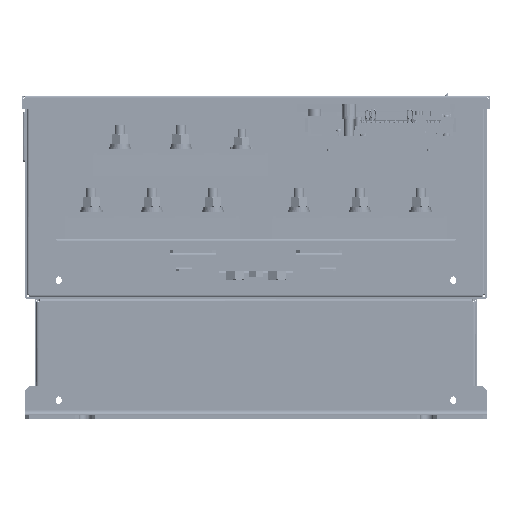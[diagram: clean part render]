
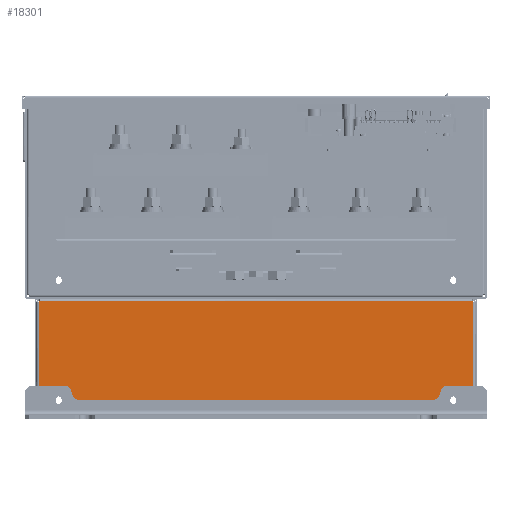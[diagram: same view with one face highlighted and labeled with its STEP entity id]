
A CAD part, front view. The second image highlights one B-rep face of the part: STEP entity #18301.
In plain terms, the highlighted planar face has unit normal (0, -1, 0) as drawn and (0, 0, 1) by its records, which use the part's own axes.
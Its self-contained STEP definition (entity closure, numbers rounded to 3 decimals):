
#16862=DIRECTION('',(-1.,0.,0.));
#16863=VECTOR('',#16862,469.679);
#16864=CARTESIAN_POINT('',(234.84,2.8,0.));
#16865=LINE('',#16864,#16863);
#16870=CARTESIAN_POINT('',(-236.5,126.685,0.));
#16871=DIRECTION('',(0.,0.,1.));
#16872=DIRECTION('',(0.5,-0.866,0.));
#16873=AXIS2_PLACEMENT_3D('',#16870,#16871,#16872);
#16875=CARTESIAN_POINT('',(236.5,126.685,0.));
#16876=DIRECTION('',(0.,0.,1.));
#16877=DIRECTION('',(-0.84,-0.543,0.));
#16878=AXIS2_PLACEMENT_3D('',#16875,#16876,#16877);
#16880=CARTESIAN_POINT('',(236.5,1.685,0.));
#16881=DIRECTION('',(0.,0.,1.));
#16882=DIRECTION('',(-0.5,0.866,0.));
#16883=AXIS2_PLACEMENT_3D('',#16880,#16881,#16882);
#16885=CARTESIAN_POINT('',(-236.5,1.685,0.));
#16886=DIRECTION('',(0.,0.,1.));
#16887=DIRECTION('',(0.83,0.557,0.));
#16888=AXIS2_PLACEMENT_3D('',#16885,#16886,#16887);
#16890=CARTESIAN_POINT('',(212.5,18.3,0.));
#16891=DIRECTION('',(0.,0.,1.));
#16892=DIRECTION('',(-1.,0.,0.));
#16893=AXIS2_PLACEMENT_3D('',#16890,#16891,#16892);
#16895=CARTESIAN_POINT('',(212.5,18.3,0.));
#16896=DIRECTION('',(0.,0.,1.));
#16897=DIRECTION('',(1.,0.,0.));
#16898=AXIS2_PLACEMENT_3D('',#16895,#16896,#16897);
#16900=CARTESIAN_POINT('',(-212.5,18.3,0.));
#16901=DIRECTION('',(0.,0.,1.));
#16902=DIRECTION('',(-1.,0.,0.));
#16903=AXIS2_PLACEMENT_3D('',#16900,#16901,#16902);
#16905=CARTESIAN_POINT('',(-212.5,18.3,0.));
#16906=DIRECTION('',(0.,0.,1.));
#16907=DIRECTION('',(1.,0.,0.));
#16908=AXIS2_PLACEMENT_3D('',#16905,#16906,#16907);
#16918=DIRECTION('',(0.,1.,0.));
#16919=VECTOR('',#16918,121.536);
#16920=CARTESIAN_POINT('',(-235.5,3.417,0.));
#16921=LINE('',#16920,#16919);
#17130=DIRECTION('',(0.,-1.,0.));
#17131=VECTOR('',#17130,121.536);
#17132=CARTESIAN_POINT('',(235.5,124.953,0.));
#17133=LINE('',#17132,#17131);
#17688=DIRECTION('',(1.,0.,0.));
#17689=VECTOR('',#17688,469.64);
#17690=CARTESIAN_POINT('',(-234.82,125.6,0.));
#17691=LINE('',#17690,#17689);
#17982=CARTESIAN_POINT('',(206.25,18.3,0.));
#17983=CARTESIAN_POINT('',(218.75,18.3,0.));
#17984=VERTEX_POINT('',#17982);
#17985=VERTEX_POINT('',#17983);
#18038=CARTESIAN_POINT('',(-218.75,18.3,0.));
#18039=CARTESIAN_POINT('',(-206.25,18.3,0.));
#18040=VERTEX_POINT('',#18038);
#18041=VERTEX_POINT('',#18039);
#18054=CARTESIAN_POINT('',(234.84,2.8,0.));
#18055=CARTESIAN_POINT('',(-234.84,2.8,0.));
#18056=VERTEX_POINT('',#18054);
#18057=VERTEX_POINT('',#18055);
#18071=CARTESIAN_POINT('',(234.82,125.6,0.));
#18073=VERTEX_POINT('',#18071);
#18075=CARTESIAN_POINT('',(-234.82,125.6,0.));
#18077=VERTEX_POINT('',#18075);
#18080=CARTESIAN_POINT('',(235.5,3.417,0.));
#18081=VERTEX_POINT('',#18080);
#18084=CARTESIAN_POINT('',(235.5,124.953,0.));
#18085=VERTEX_POINT('',#18084);
#18104=CARTESIAN_POINT('',(-235.5,3.417,0.));
#18105=VERTEX_POINT('',#18104);
#18108=CARTESIAN_POINT('',(-235.5,124.953,0.));
#18109=VERTEX_POINT('',#18108);
#18267=CARTESIAN_POINT('',(0.,0.,0.));
#18268=DIRECTION('',(0.,0.,1.));
#18269=DIRECTION('',(1.,0.,0.));
#18270=AXIS2_PLACEMENT_3D('',#18267,#18268,#18269);
#18271=PLANE('',#18270);
#18273=ORIENTED_EDGE('',*,*,#18272,.T.);
#18275=ORIENTED_EDGE('',*,*,#18274,.T.);
#18277=ORIENTED_EDGE('',*,*,#18276,.T.);
#18279=ORIENTED_EDGE('',*,*,#18278,.T.);
#18281=ORIENTED_EDGE('',*,*,#18280,.T.);
#18282=ORIENTED_EDGE('',*,*,#18257,.T.);
#18284=ORIENTED_EDGE('',*,*,#18283,.T.);
#18286=ORIENTED_EDGE('',*,*,#18285,.T.);
#18287=EDGE_LOOP('',(#18273,#18275,#18277,#18279,#18281,#18282,#18284,#18286));
#18288=FACE_OUTER_BOUND('',#18287,.F.);
#18290=ORIENTED_EDGE('',*,*,#18289,.T.);
#18292=ORIENTED_EDGE('',*,*,#18291,.T.);
#18293=EDGE_LOOP('',(#18290,#18292));
#18294=FACE_BOUND('',#18293,.F.);
#18296=ORIENTED_EDGE('',*,*,#18295,.T.);
#18298=ORIENTED_EDGE('',*,*,#18297,.T.);
#18299=EDGE_LOOP('',(#18296,#18298));
#18300=FACE_BOUND('',#18299,.F.);
#18301=ADVANCED_FACE('',(#18288,#18294,#18300),#18271,.T.);
#16874=CIRCLE('',#16873,2.);
#16879=CIRCLE('',#16878,2.);
#16884=CIRCLE('',#16883,2.);
#16889=CIRCLE('',#16888,2.);
#16894=CIRCLE('',#16893,6.25);
#16899=CIRCLE('',#16898,6.25);
#16904=CIRCLE('',#16903,6.25);
#16909=CIRCLE('',#16908,6.25);
#18257=EDGE_CURVE('',#18056,#18057,#16865,.T.);
#18272=EDGE_CURVE('',#18109,#18077,#16874,.T.);
#18274=EDGE_CURVE('',#18077,#18073,#17691,.T.);
#18276=EDGE_CURVE('',#18073,#18085,#16879,.T.);
#18278=EDGE_CURVE('',#18085,#18081,#17133,.T.);
#18280=EDGE_CURVE('',#18081,#18056,#16884,.T.);
#18283=EDGE_CURVE('',#18057,#18105,#16889,.T.);
#18285=EDGE_CURVE('',#18105,#18109,#16921,.T.);
#18289=EDGE_CURVE('',#17984,#17985,#16894,.T.);
#18291=EDGE_CURVE('',#17985,#17984,#16899,.T.);
#18295=EDGE_CURVE('',#18040,#18041,#16904,.T.);
#18297=EDGE_CURVE('',#18041,#18040,#16909,.T.);
